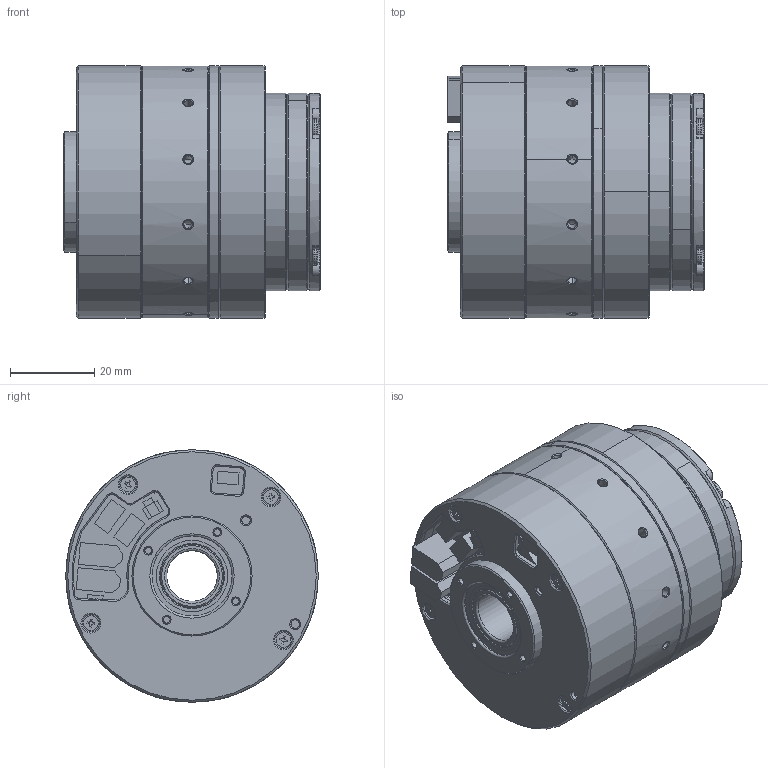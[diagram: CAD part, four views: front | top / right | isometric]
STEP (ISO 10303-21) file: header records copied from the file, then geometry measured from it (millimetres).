
FILE_DESCRIPTION (( 'STEP AP203' ), '1' );
FILE_NAME ('CRA-RI50-60-PRO-2-xxx-B0.step', '2024-07-31T06:31:44', ( '' ), ( '' ), 'SwSTEP 2.0', 'SolidWorks 2021', '' );
FILE_SCHEMA (( 'CONFIG_CONTROL_DESIGN' ));
Length unit declared in the file: millimetre
Products named in the file (1): CRA-RI50-60-PRO-2-xxx-B0
Bounding box: 61 x 60 x 60 mm (x, y, z)
Surface area: 34713.4 mm2 (no closed solid volume)
Topology: 0 solids, 85 shells, 938 faces, 3357 edges, 2433 vertices
Faces by surface type: plane 356, cylinder 297, cone 233, torus 51, sphere 1
Entity records: 39577 total; most frequent: CARTESIAN_POINT 10952, DIRECTION 6169, ORIENTED_EDGE 5094, EDGE_CURVE 3340, VERTEX_POINT 2433, AXIS2_PLACEMENT_3D 2234, LINE 1701, VECTOR 1701
